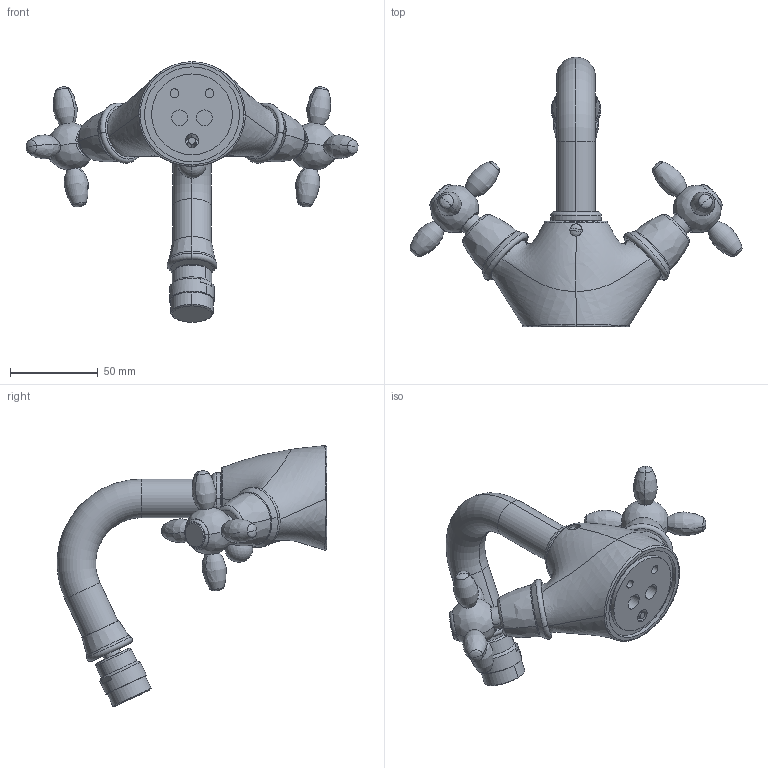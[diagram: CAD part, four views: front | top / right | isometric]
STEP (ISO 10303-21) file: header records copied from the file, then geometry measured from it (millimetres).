
FILE_DESCRIPTION((''),'2;1');
FILE_NAME('F5022_FILE_3D','2013-06-07T',('ivanv'),(''),'PRO/ENGINEER BY PARAMETRIC TECHNOLOGY CORPORATION, 2012130','PRO/ENGINEER BY PARAMETRIC TECHNOLOGY CORPORATION, 2012130','');
FILE_SCHEMA(('CONFIG_CONTROL_DESIGN'));
Length unit declared in the file: millimetre
Products named in the file (1): F5022_FILE_3D
Bounding box: 188.89 x 153.4 x 148.22 mm (x, y, z)
Volume: 271389.5 mm3; surface area: 60424.8 mm2
Topology: 2 solids, 3 shells, 219 faces, 504 edges, 301 vertices
Faces by surface type: plane 57, cylinder 46, torus 40, revolution 32, bspline 28, cone 12, sphere 4
Entity records: 26389 total; most frequent: CARTESIAN_POINT 21607, DIRECTION 978, ORIENTED_EDGE 972, EDGE_CURVE 486, AXIS2_PLACEMENT_3D 417, VERTEX_POINT 301, CIRCLE 257, EDGE_LOOP 249
